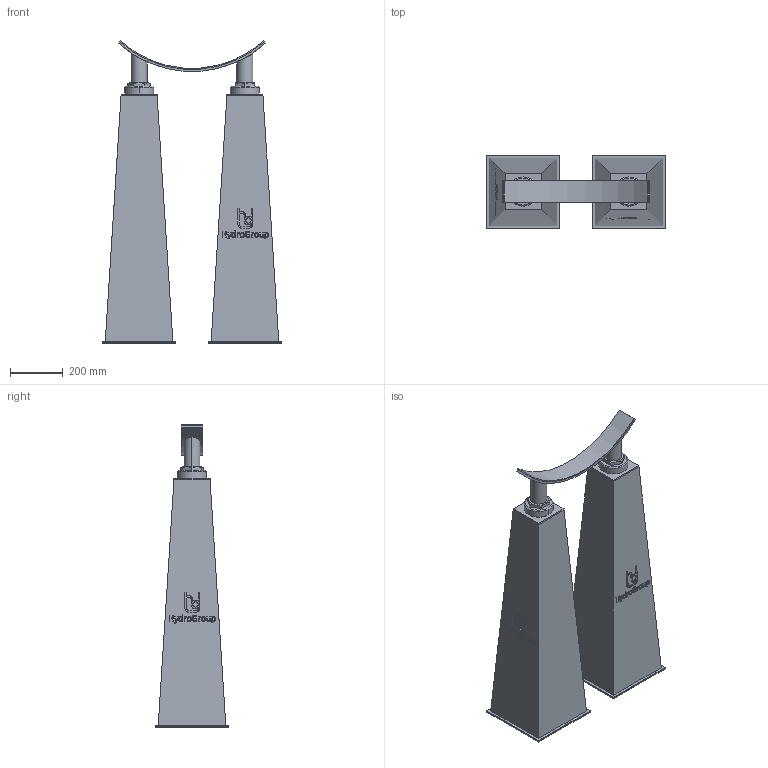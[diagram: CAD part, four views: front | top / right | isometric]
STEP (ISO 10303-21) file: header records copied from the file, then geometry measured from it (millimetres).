
FILE_DESCRIPTION(('STEP AP214'),'1');
FILE_NAME('RSRFE-III-DUO_DN800.stp','2018-06-29T07:29:21',(' '),(' '),'Spatial InterOp 3D',' ',' ');
FILE_SCHEMA(('automotive_design'));
Length unit declared in the file: millimetre
Products named in the file (10): 1; 2; 3; 4; 5; 6; 7; 8; 9; 10
Bounding box: 676.01 x 276.01 x 1143.03 mm (x, y, z)
Volume: 77690819.1 mm3; surface area: 2407778.3 mm2
Topology: 10 solids, 10 shells, 408 faces, 1014 edges, 664 vertices
Faces by surface type: plane 270, cylinder 62, extrusion 48, cone 28
Entity records: 16797 total; most frequent: CARTESIAN_POINT 3704, ORIENTED_EDGE 2028, DIRECTION 1826, EDGE_CURVE 1014, VECTOR 790, LINE 742, VERTEX_POINT 664, AXIS2_PLACEMENT_3D 518
